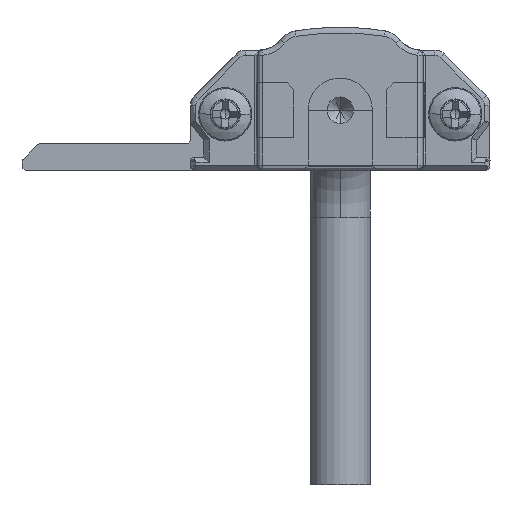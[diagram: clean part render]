
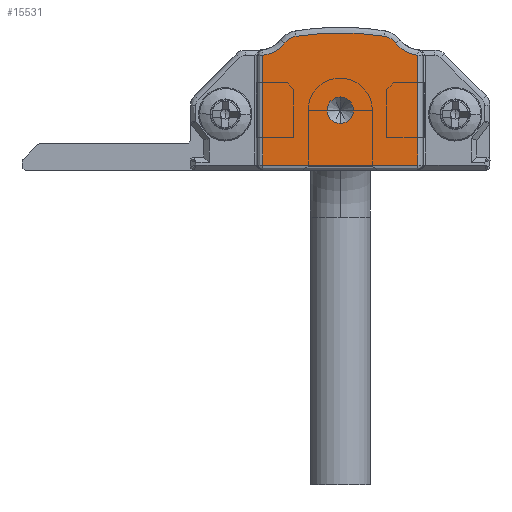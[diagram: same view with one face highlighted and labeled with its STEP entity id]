
A CAD part, front view. The second image highlights one B-rep face of the part: STEP entity #15531.
In plain terms, the highlighted planar face has unit normal (0, -1, 0).
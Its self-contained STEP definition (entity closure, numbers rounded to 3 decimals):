
#152 = EDGE_CURVE ( 'NONE', #681, #28459, #23634, .T. ) ;
#242 = CARTESIAN_POINT ( 'NONE',  ( 17.238, -15., 11. ) ) ;
#609 = VERTEX_POINT ( 'NONE', #26072 ) ;
#681 = VERTEX_POINT ( 'NONE', #9424 ) ;
#1584 = FACE_BOUND ( 'NONE', #21746, .T. ) ;
#1632 = CARTESIAN_POINT ( 'NONE',  ( 11.2, -15., -10.376 ) ) ;
#1969 = DIRECTION ( 'NONE',  ( 0., 0., -1. ) ) ;
#2265 = DIRECTION ( 'NONE',  ( 0., 0., -1. ) ) ;
#2737 = EDGE_CURVE ( 'NONE', #28459, #31584, #5592, .T. ) ;
#3210 = VERTEX_POINT ( 'NONE', #3457 ) ;
#3341 = CARTESIAN_POINT ( 'NONE',  ( 5.162, -15., 11. ) ) ;
#3457 = CARTESIAN_POINT ( 'NONE',  ( 7.892, -15., 10.034 ) ) ;
#3895 = AXIS2_PLACEMENT_3D ( 'NONE', #7182, #9928, #15202 ) ;
#4136 = EDGE_CURVE ( 'NONE', #10038, #8257, #23546, .T. ) ;
#4183 = CARTESIAN_POINT ( 'NONE',  ( 11.2, -15., 4.5 ) ) ;
#4267 = ORIENTED_EDGE ( 'NONE', *, *, #152, .T. ) ;
#4391 = CIRCLE ( 'NONE', #3895, 1.3 ) ;
#5592 = CIRCLE ( 'NONE', #23465, 2.4 ) ;
#6314 = CARTESIAN_POINT ( 'NONE',  ( 17., -15., 0.4 ) ) ;
#6827 = CIRCLE ( 'NONE', #15538, 1. ) ;
#7001 = EDGE_CURVE ( 'NONE', #3210, #31303, #4391, .T. ) ;
#7121 = CARTESIAN_POINT ( 'NONE',  ( 15.332, -15., 9.541 ) ) ;
#7182 = CARTESIAN_POINT ( 'NONE',  ( 8.1, -15., 8.75 ) ) ;
#7407 = ORIENTED_EDGE ( 'NONE', *, *, #16899, .T. ) ;
#8257 = VERTEX_POINT ( 'NONE', #11020 ) ;
#8376 = CIRCLE ( 'NONE', #26787, 2.4 ) ;
#8978 = CARTESIAN_POINT ( 'NONE',  ( 5.4, -15., 0.4 ) ) ;
#9405 = ORIENTED_EDGE ( 'NONE', *, *, #30686, .F. ) ;
#9424 = CARTESIAN_POINT ( 'NONE',  ( 17., -15., 0.4 ) ) ;
#9792 = DIRECTION ( 'NONE',  ( 0., 1., 0. ) ) ;
#9870 = DIRECTION ( 'NONE',  ( 0., 0., -1. ) ) ;
#9928 = DIRECTION ( 'NONE',  ( 0., -1., 0. ) ) ;
#10038 = VERTEX_POINT ( 'NONE', #30981 ) ;
#10147 = CARTESIAN_POINT ( 'NONE',  ( 11.2, -15., 3.5 ) ) ;
#10168 = CIRCLE ( 'NONE', #26001, 1.3 ) ;
#10636 = ORIENTED_EDGE ( 'NONE', *, *, #7001, .T. ) ;
#10824 = ORIENTED_EDGE ( 'NONE', *, *, #28334, .T. ) ;
#10947 = CARTESIAN_POINT ( 'NONE',  ( 11.2, -15., 4.5 ) ) ;
#11020 = CARTESIAN_POINT ( 'NONE',  ( 5.4, -15., 0.4 ) ) ;
#11241 = AXIS2_PLACEMENT_3D ( 'NONE', #4183, #24150, #2265 ) ;
#12881 = ORIENTED_EDGE ( 'NONE', *, *, #2737, .T. ) ;
#13003 = ORIENTED_EDGE ( 'NONE', *, *, #23005, .T. ) ;
#13534 = VECTOR ( 'NONE', #1969, 1000. ) ;
#13639 = VECTOR ( 'NONE', #23339, 1000. ) ;
#13786 = CARTESIAN_POINT ( 'NONE',  ( 7.068, -15., 9.541 ) ) ;
#14403 = AXIS2_PLACEMENT_3D ( 'NONE', #21064, #30390, #21231 ) ;
#14833 = DIRECTION ( 'NONE',  ( 0., 1., 0. ) ) ;
#15202 = DIRECTION ( 'NONE',  ( 0., 0., -1. ) ) ;
#15531 = ADVANCED_FACE ( 'NONE', ( #25747, #1584 ), #18187, .T. ) ;
#15538 = AXIS2_PLACEMENT_3D ( 'NONE', #10947, #28216, #20679 ) ;
#16148 = EDGE_CURVE ( 'NONE', #20401, #3210, #17480, .T. ) ;
#16501 = CARTESIAN_POINT ( 'NONE',  ( 17., -15., 8.612 ) ) ;
#16899 = EDGE_CURVE ( 'NONE', #31303, #10038, #8376, .T. ) ;
#17439 = DIRECTION ( 'NONE',  ( 0., 0., -1. ) ) ;
#17480 = CIRCLE ( 'NONE', #23648, 20.676 ) ;
#18187 = PLANE ( 'NONE',  #14403 ) ;
#18851 = DIRECTION ( 'NONE',  ( 0., 0., -1. ) ) ;
#19934 = EDGE_CURVE ( 'NONE', #26626, #609, #6827, .T. ) ;
#20401 = VERTEX_POINT ( 'NONE', #29871 ) ;
#20450 = CARTESIAN_POINT ( 'NONE',  ( 17., -15., 8.612 ) ) ;
#20679 = DIRECTION ( 'NONE',  ( 0., 0., -1. ) ) ;
#20925 = EDGE_LOOP ( 'NONE', ( #4267, #12881, #13003, #28338, #10636, #7407, #29907, #10824 ) ) ;
#21018 = DIRECTION ( 'NONE',  ( 1., 0., 0. ) ) ;
#21064 = CARTESIAN_POINT ( 'NONE',  ( 22.15, -15., 3.606 ) ) ;
#21231 = DIRECTION ( 'NONE',  ( 0., 0., -1. ) ) ;
#21746 = EDGE_LOOP ( 'NONE', ( #28480, #9405 ) ) ;
#23005 = EDGE_CURVE ( 'NONE', #31584, #20401, #10168, .T. ) ;
#23339 = DIRECTION ( 'NONE',  ( 0., 0., 1. ) ) ;
#23465 = AXIS2_PLACEMENT_3D ( 'NONE', #242, #9792, #28855 ) ;
#23546 = LINE ( 'NONE', #8978, #13534 ) ;
#23634 = LINE ( 'NONE', #20450, #13639 ) ;
#23648 = AXIS2_PLACEMENT_3D ( 'NONE', #1632, #23836, #18851 ) ;
#23836 = DIRECTION ( 'NONE',  ( 0., -1., 0. ) ) ;
#24150 = DIRECTION ( 'NONE',  ( 0., -1., 0. ) ) ;
#25747 = FACE_OUTER_BOUND ( 'NONE', #20925, .T. ) ;
#26001 = AXIS2_PLACEMENT_3D ( 'NONE', #27541, #29653, #17439 ) ;
#26072 = CARTESIAN_POINT ( 'NONE',  ( 11.2, -15., 5.5 ) ) ;
#26626 = VERTEX_POINT ( 'NONE', #10147 ) ;
#26787 = AXIS2_PLACEMENT_3D ( 'NONE', #3341, #14833, #9870 ) ;
#27541 = CARTESIAN_POINT ( 'NONE',  ( 14.3, -15., 8.75 ) ) ;
#28216 = DIRECTION ( 'NONE',  ( 0., -1., 0. ) ) ;
#28243 = LINE ( 'NONE', #6314, #28456 ) ;
#28334 = EDGE_CURVE ( 'NONE', #8257, #681, #28243, .T. ) ;
#28338 = ORIENTED_EDGE ( 'NONE', *, *, #16148, .T. ) ;
#28456 = VECTOR ( 'NONE', #21018, 1000. ) ;
#28459 = VERTEX_POINT ( 'NONE', #16501 ) ;
#28480 = ORIENTED_EDGE ( 'NONE', *, *, #19934, .F. ) ;
#28855 = DIRECTION ( 'NONE',  ( 0., 0., -1. ) ) ;
#29653 = DIRECTION ( 'NONE',  ( 0., -1., 0. ) ) ;
#29871 = CARTESIAN_POINT ( 'NONE',  ( 14.508, -15., 10.034 ) ) ;
#29907 = ORIENTED_EDGE ( 'NONE', *, *, #4136, .T. ) ;
#30390 = DIRECTION ( 'NONE',  ( 0., -1., 0. ) ) ;
#30686 = EDGE_CURVE ( 'NONE', #609, #26626, #31140, .T. ) ;
#30981 = CARTESIAN_POINT ( 'NONE',  ( 5.4, -15., 8.612 ) ) ;
#31140 = CIRCLE ( 'NONE', #11241, 1. ) ;
#31303 = VERTEX_POINT ( 'NONE', #13786 ) ;
#31584 = VERTEX_POINT ( 'NONE', #7121 ) ;
